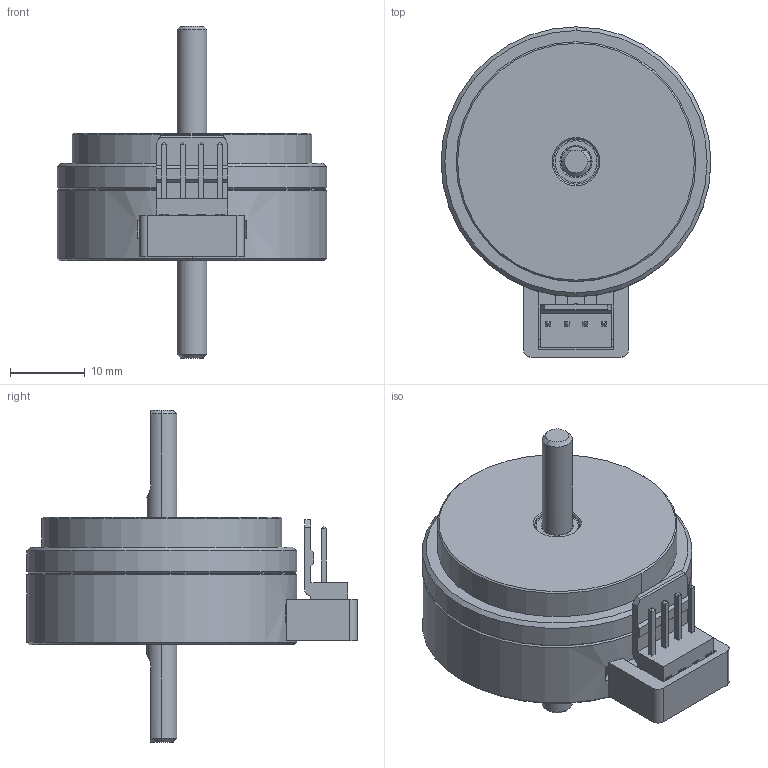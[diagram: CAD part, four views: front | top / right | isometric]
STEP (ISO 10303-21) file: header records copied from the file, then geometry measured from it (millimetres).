
FILE_DESCRIPTION (( 'STEP AP214' ), '1' );
FILE_NAME ('USR30_S4_2012.STEP', '2012-09-18T15:31:11', ( '' ), ( '' ), 'SwSTEP 2.0', 'SolidWorks 2012', '' );
FILE_SCHEMA (( 'AUTOMOTIVE_DESIGN' ));
Length unit declared in the file: millimetre
Products named in the file (1): USR30_S4_2012
Bounding box: 36 x 44.05 x 44.3 mm (x, y, z)
Surface area: 7645.8 mm2 (no closed solid volume)
Topology: 0 solids, 25 shells, 265 faces, 944 edges, 702 vertices
Faces by surface type: plane 147, cone 56, cylinder 48, bspline 12, torus 2
Entity records: 13457 total; most frequent: CARTESIAN_POINT 2402, DIRECTION 1707, ORIENTED_EDGE 1482, EDGE_CURVE 944, VERTEX_POINT 702, AXIS2_PLACEMENT_3D 583, VECTOR 541, LINE 541
